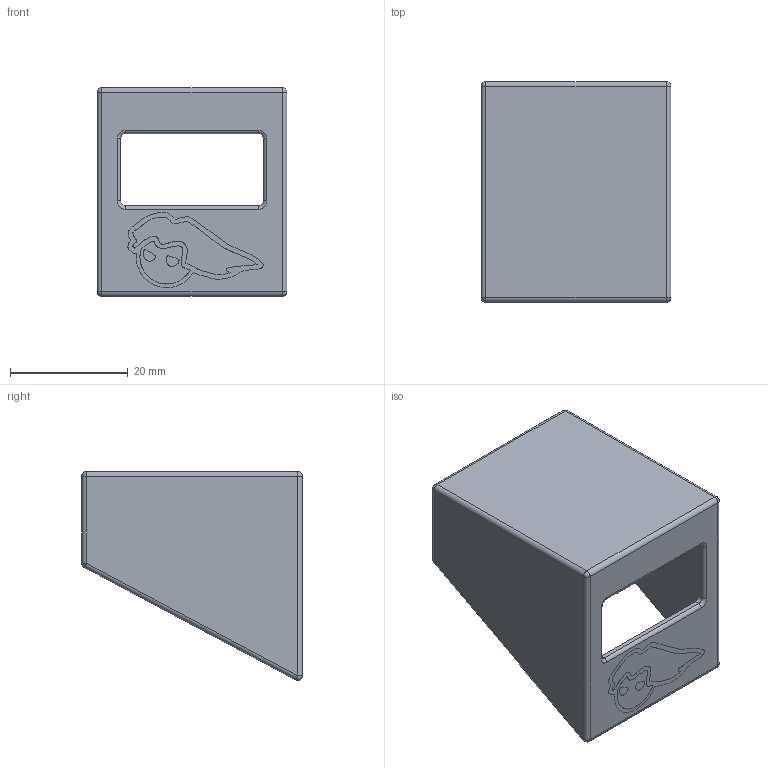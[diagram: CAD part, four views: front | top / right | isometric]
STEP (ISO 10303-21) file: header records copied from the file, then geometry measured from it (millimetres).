
FILE_DESCRIPTION(/* description */ (''),/* implementation_level */ '2;1');
FILE_NAME(/* name */ 'Body - with logo.step',/* time_stamp */ '2025-11-28T14:49:29+01:00',/* author */ (''),/* organization */ (''),/* preprocessor_version */ 'ST-DEVELOPER v20.1',/* originating_system */ 'Autodesk Translation Framework v14.21.0.0',/* authorisation */ '');
FILE_SCHEMA (('AUTOMOTIVE_DESIGN { 1 0 10303 214 3 1 1 }'));
Length unit declared in the file: millimetre
Products named in the file (6): Body - with logo; Body (1); hair; face; brim; eyes
Assembly tree (5 placements, depth 2):
  Body - with logo
    Body (1)
    hair
    face
    brim
    eyes
Bounding box: 32.2 x 37.4 x 35.38 mm (x, y, z)
Volume: 7736.4 mm3; surface area: 8575.8 mm2
Topology: 6 solids, 6 shells, 269 faces, 710 edges, 458 vertices
Faces by surface type: bspline 152, plane 67, cylinder 30, sphere 8, cone 8, torus 4
Full cylindrical faces by diameter (mm): 1 x4, 1.8 x4
Entity records: 8800 total; most frequent: CARTESIAN_POINT 3424, ORIENTED_EDGE 1420, DIRECTION 730, EDGE_CURVE 710, VERTEX_POINT 458, LINE 338, VECTOR 338, EDGE_LOOP 284
